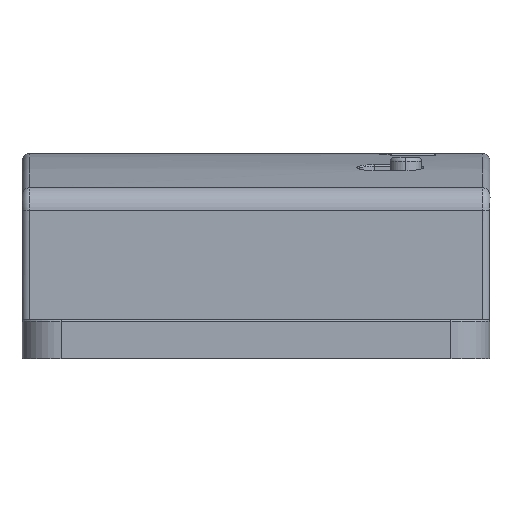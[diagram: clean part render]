
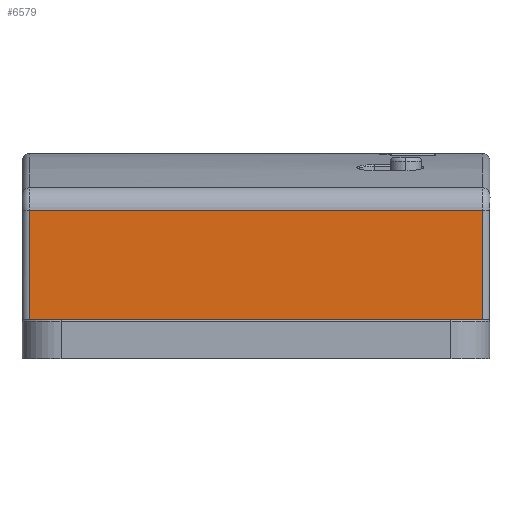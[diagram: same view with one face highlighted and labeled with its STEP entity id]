
A CAD part, left-side view. The second image highlights one B-rep face of the part: STEP entity #6579.
In plain terms, the highlighted planar face has unit normal (-1, 0, 0).
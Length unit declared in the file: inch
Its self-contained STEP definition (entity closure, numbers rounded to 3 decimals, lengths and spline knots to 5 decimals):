
#6161 = VERTEX_POINT ( 'NONE', #19278 ) ;
#6163 = EDGE_CURVE ( 'NONE', #6335, #6161, #19271, .T. ) ;
#6180 = EDGE_CURVE ( 'NONE', #6161, #6443, #19395, .T. ) ;
#6333 = EDGE_CURVE ( 'NONE', #6334, #6335, #19547, .T. ) ;
#6334 = VERTEX_POINT ( 'NONE', #19543 ) ;
#6335 = VERTEX_POINT ( 'NONE', #19542 ) ;
#6443 = VERTEX_POINT ( 'NONE', #19699 ) ;
#6469 = ORIENTED_EDGE ( 'NONE', *, *, #6163, .T. ) ;
#6470 = ORIENTED_EDGE ( 'NONE', *, *, #6180, .T. ) ;
#6471 = ORIENTED_EDGE ( 'NONE', *, *, #6472, .F. ) ;
#6472 = EDGE_CURVE ( 'NONE', #6334, #6443, #19748, .T. ) ;
#6473 = ORIENTED_EDGE ( 'NONE', *, *, #6333, .T. ) ;
#6579 = ADVANCED_FACE ( 'NONE', ( #20125 ), #20124, .T. ) ;
#6580 = EDGE_LOOP ( 'NONE', ( #6469, #6470, #6471, #6473 ) ) ;
#19268 = DIRECTION ( 'NONE',  ( 0., -1., 0. ) ) ;
#19269 = VECTOR ( 'NONE', #19268, 39.37008 ) ;
#19270 = CARTESIAN_POINT ( 'NONE',  ( -1.37402, 1.17717, 0. ) ) ;
#19271 = LINE ( 'NONE', #19270, #19269 ) ;
#19278 = CARTESIAN_POINT ( 'NONE',  ( -1.37402, -1.1378, 0. ) ) ;
#19392 = DIRECTION ( 'NONE',  ( 0., 0., 1. ) ) ;
#19393 = VECTOR ( 'NONE', #19392, 39.37008 ) ;
#19394 = CARTESIAN_POINT ( 'NONE',  ( -1.37402, -1.1378, 0. ) ) ;
#19395 = LINE ( 'NONE', #19394, #19393 ) ;
#19542 = CARTESIAN_POINT ( 'NONE',  ( -1.37402, 1.1378, 0. ) ) ;
#19543 = CARTESIAN_POINT ( 'NONE',  ( -1.37402, 1.1378, 0.55041 ) ) ;
#19544 = DIRECTION ( 'NONE',  ( 0., 0., -1. ) ) ;
#19545 = VECTOR ( 'NONE', #19544, 39.37008 ) ;
#19546 = CARTESIAN_POINT ( 'NONE',  ( -1.37402, 1.1378, 0. ) ) ;
#19547 = LINE ( 'NONE', #19546, #19545 ) ;
#19699 = CARTESIAN_POINT ( 'NONE',  ( -1.37402, -1.1378, 0.55041 ) ) ;
#19745 = DIRECTION ( 'NONE',  ( 0., -1., 0. ) ) ;
#19746 = VECTOR ( 'NONE', #19745, 39.37008 ) ;
#19747 = CARTESIAN_POINT ( 'NONE',  ( -1.37402, -1.18249, 0.55041 ) ) ;
#19748 = LINE ( 'NONE', #19747, #19746 ) ;
#20120 = DIRECTION ( 'NONE',  ( 0., 0., 1. ) ) ;
#20121 = DIRECTION ( 'NONE',  ( -1., 0., 0. ) ) ;
#20122 = CARTESIAN_POINT ( 'NONE',  ( -1.37402, 1.17717, 0. ) ) ;
#20123 = AXIS2_PLACEMENT_3D ( 'NONE', #20122, #20121, #20120 ) ;
#20124 = PLANE ( 'NONE',  #20123 ) ;
#20125 = FACE_OUTER_BOUND ( 'NONE', #6580, .T. ) ;
